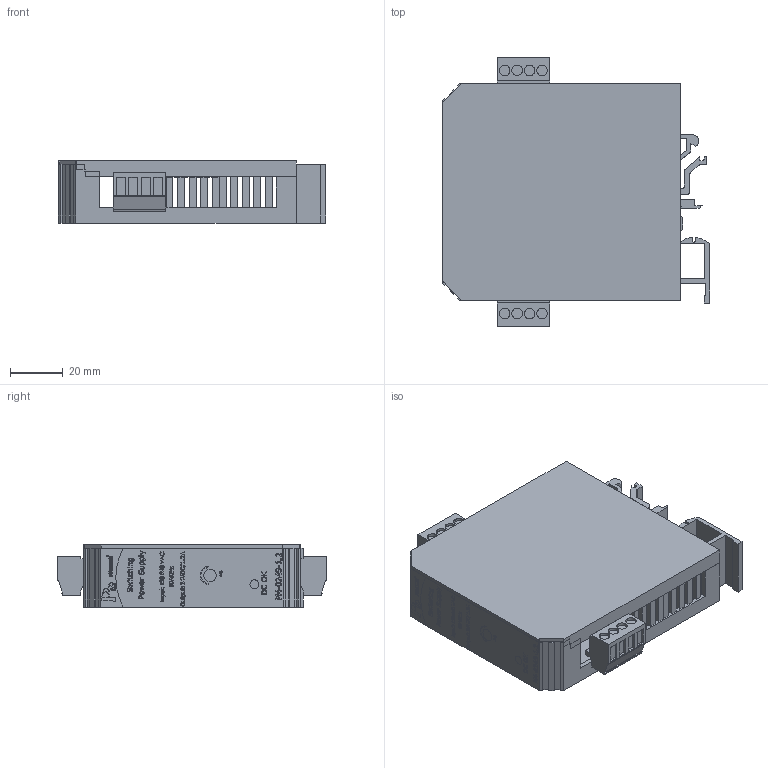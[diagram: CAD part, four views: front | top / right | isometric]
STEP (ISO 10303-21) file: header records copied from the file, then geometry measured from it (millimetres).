
FILE_DESCRIPTION (( 'STEP AP214' ), '1' );
FILE_NAME ('PM-024S-.12.STEP', '2026-05-13T04:24:13', ( '' ), ( '' ), 'SwSTEP 2.0', 'SolidWorks 2022', '' );
FILE_SCHEMA (( 'AUTOMOTIVE_DESIGN' ));
Length unit declared in the file: millimetre
Products named in the file (1): PM-024S-.12
Bounding box: 101.64 x 102.5 x 23.68 mm (x, y, z)
Volume: 42839.8 mm3; surface area: 52336 mm2
Topology: 8 solids, 8 shells, 1592 faces, 4278 edges, 2830 vertices
Faces by surface type: plane 1108, bspline 436, cylinder 48
Entity records: 71453 total; most frequent: CARTESIAN_POINT 32522, ORIENTED_EDGE 8556, DIRECTION 5813, EDGE_CURVE 4278, LINE 3307, VECTOR 3307, VERTEX_POINT 2830, EDGE_LOOP 1756
